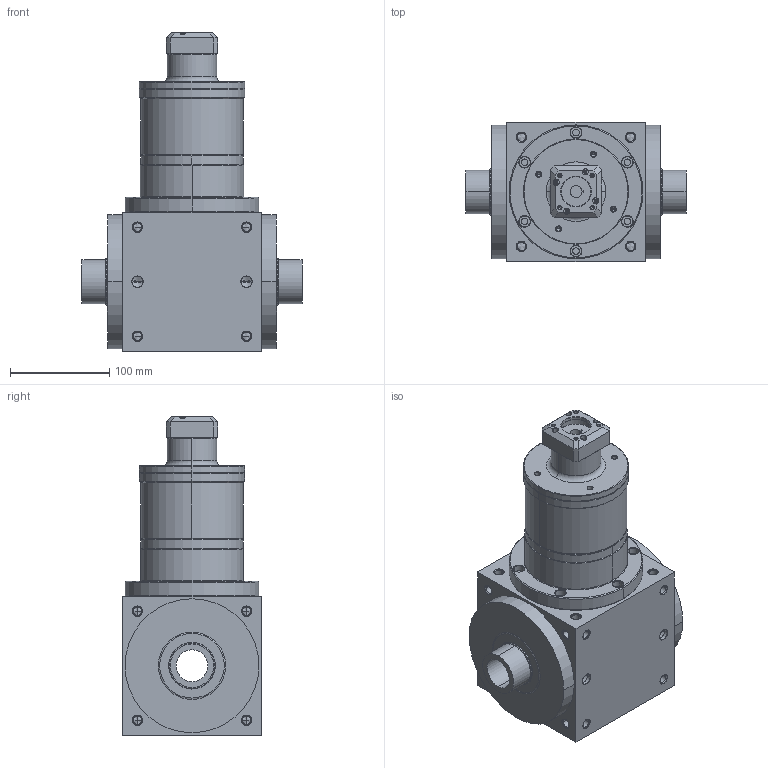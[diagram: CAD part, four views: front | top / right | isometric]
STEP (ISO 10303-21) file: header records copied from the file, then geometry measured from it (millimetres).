
FILE_DESCRIPTION((''),'2;1');
FILE_NAME('AT140FC3-P0405100202_ASM','2009-02-06T',('d00176'),(''),'PRO/ENGINEER BY PARAMETRIC TECHNOLOGY CORPORATION, 2006170','PRO/ENGINEER BY PARAMETRIC TECHNOLOGY CORPORATION, 2006170','');
FILE_SCHEMA(('CONFIG_CONTROL_DESIGN'));
Length unit declared in the file: millimetre
Products named in the file (6): ATFC-HOUSING-3-6; P1801600001; P0226600002; P0227600001; P0405100202; AT140FC3-P0405100202_ASM
Assembly tree (5 placements, depth 2):
  AT140FC3-P0405100202_ASM
    ATFC-HOUSING-3-6
    P1801600001
    P0226600002
    P0227600001
    P0405100202
Bounding box: 222 x 140 x 321 mm (x, y, z)
Volume: 3824478.5 mm3; surface area: 363458.5 mm2
Topology: 5 solids, 47 shells, 891 faces, 2164 edges, 1285 vertices
Faces by surface type: cylinder 388, cone 324, plane 121, torus 54, bspline 4
Entity records: 26692 total; most frequent: CARTESIAN_POINT 5587, DIRECTION 4806, ORIENTED_EDGE 3972, EDGE_CURVE 2070, AXIS2_PLACEMENT_3D 2024, VERTEX_POINT 1285, CIRCLE 1116, EDGE_LOOP 1071
